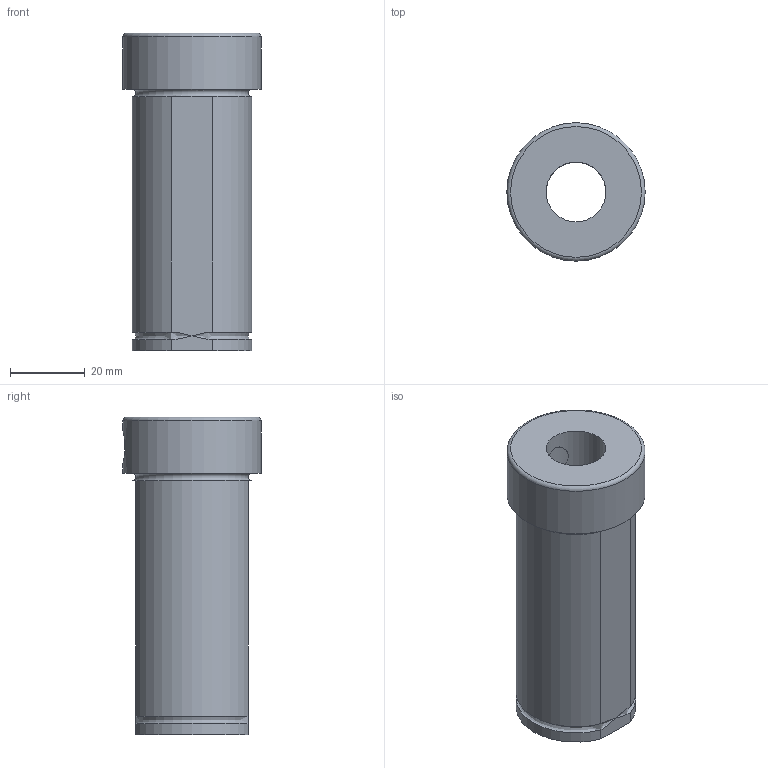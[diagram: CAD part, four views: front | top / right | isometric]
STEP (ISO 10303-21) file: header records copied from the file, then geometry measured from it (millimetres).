
FILE_DESCRIPTION(/* description */ (''),/* implementation_level */ '2;1');
FILE_NAME(/* name */ '',/* time_stamp */ '2025-08-20T13:48:23+03:00',/* author */ ('User'),/* organization */ (''),/* preprocessor_version */ 'ST-DEVELOPER v19.2',/* originating_system */ 'Autodesk Inventor 2024',/* authorisation */ '');
FILE_SCHEMA (('AUTOMOTIVE_DESIGN { 1 0 10303 214 3 1 1 }'));
Length unit declared in the file: millimetre
Products named in the file (1): Втулка переходная 
D40-d6
Bounding box: 37 x 37 x 85 mm (x, y, z)
Volume: 45084.2 mm3; surface area: 16687.8 mm2
Topology: 3 solids, 3 shells, 48 faces, 116 edges, 76 vertices
Faces by surface type: plane 27, cylinder 14, torus 5, bspline 1, cone 1
Full cylindrical faces by diameter (mm): 8 x3, 8.1 x1, 8.2 x1, 16 x1, 24.5 x1, 37 x1
Entity records: 1746 total; most frequent: CARTESIAN_POINT 538, ORIENTED_EDGE 232, DIRECTION 223, EDGE_CURVE 116, AXIS2_PLACEMENT_3D 81, VERTEX_POINT 76, LINE 61, VECTOR 61
